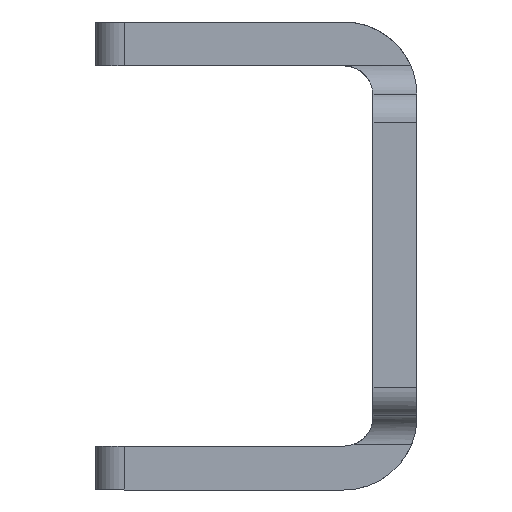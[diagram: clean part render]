
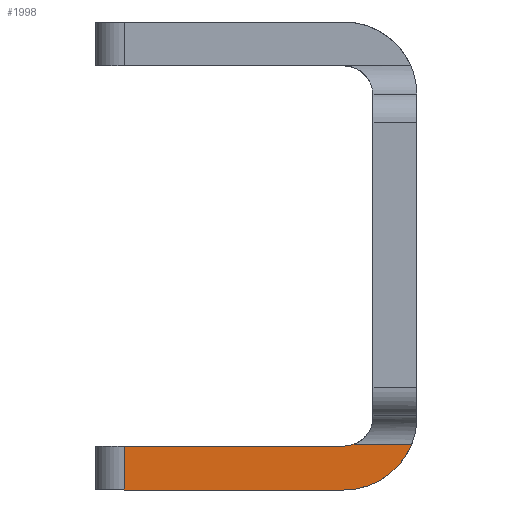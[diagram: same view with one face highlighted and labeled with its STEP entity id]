
A CAD part, left-side view. The second image highlights one B-rep face of the part: STEP entity #1998.
In plain terms, the highlighted planar face has unit normal (-1, 0, 0).
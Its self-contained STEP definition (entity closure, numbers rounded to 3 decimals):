
#66=VECTOR('Line Direction',#65,1.) ;
#249=VECTOR('Line Direction',#248,1.) ;
#922=VECTOR('Line Direction',#921,1.) ;
#1980=VECTOR('Line Direction',#1979,1.) ;
#65=DIRECTION('Vector Direction',(0.,0.,1.)) ;
#248=DIRECTION('Vector Direction',(0.,1.,0.)) ;
#921=DIRECTION('Vector Direction',(0.,1.,0.)) ;
#1967=DIRECTION('Axis2P3D Direction',(1.,0.,0.)) ;
#1968=DIRECTION('Axis2P3D XDirection',(0.,0.,-1.)) ;
#1972=DIRECTION('Axis2P3D Direction',(1.,0.,0.)) ;
#1979=DIRECTION('Vector Direction',(0.,-1.,0.)) ;
#1986=DIRECTION('Axis2P3D Direction',(1.,0.,0.)) ;
#45=CARTESIAN_POINT('Vertex',(-426.,-220.,-13.)) ;
#61=CARTESIAN_POINT('Vertex',(-426.,-220.,-16.)) ;
#64=CARTESIAN_POINT('Line Origine',(-426.,-220.,-14.436)) ;
#197=CARTESIAN_POINT('Vertex',(-426.,-235.,-13.)) ;
#247=CARTESIAN_POINT('Line Origine',(-426.,-227.5,-13.)) ;
#917=CARTESIAN_POINT('Vertex',(-426.,-235.,-16.)) ;
#920=CARTESIAN_POINT('Line Origine',(-426.,-227.5,-16.)) ;
#1966=CARTESIAN_POINT('Axis2P3D Location',(-426.,-240.,16.)) ;
#1971=CARTESIAN_POINT('Axis2P3D Location',(-426.,-235.,-11.)) ;
#1975=CARTESIAN_POINT('Vertex',(-426.,-239.636,-12.873)) ;
#1978=CARTESIAN_POINT('Line Origine',(-426.,-237.669,-12.873)) ;
#1982=CARTESIAN_POINT('Vertex',(-426.,-235.701,-12.873)) ;
#1985=CARTESIAN_POINT('Axis2P3D Location',(-426.,-235.,-11.)) ;
#1969=AXIS2_PLACEMENT_3D('Plane Axis2P3D',#1966,#1967,#1968) ;
#1973=AXIS2_PLACEMENT_3D('Circle Axis2P3D',#1971,#1972,$) ;
#1987=AXIS2_PLACEMENT_3D('Circle Axis2P3D',#1985,#1986,$) ;
#68=EDGE_CURVE('',#62,#46,#67,.T.) ;
#251=EDGE_CURVE('',#198,#46,#250,.T.) ;
#924=EDGE_CURVE('',#918,#62,#923,.T.) ;
#1977=EDGE_CURVE('',#1976,#918,#1974,.T.) ;
#1984=EDGE_CURVE('',#1983,#1976,#1981,.T.) ;
#1989=EDGE_CURVE('',#1983,#198,#1988,.T.) ;
#1970=PLANE('Plane',#1969) ;
#1991=ORIENTED_EDGE('',*,*,#68,.F.) ;
#1992=ORIENTED_EDGE('',*,*,#924,.F.) ;
#1993=ORIENTED_EDGE('',*,*,#1977,.F.) ;
#1994=ORIENTED_EDGE('',*,*,#1984,.F.) ;
#1995=ORIENTED_EDGE('',*,*,#1989,.T.) ;
#1996=ORIENTED_EDGE('',*,*,#251,.T.) ;
#67=LINE('Line',#64,#66) ;
#250=LINE('Line',#247,#249) ;
#923=LINE('Line',#920,#922) ;
#1981=LINE('Line',#1978,#1980) ;
#1998=ADVANCED_FACE('\X2\96F64EF651E04F554F53\X0\',(#1997),#1970,.F.) ;
#1974=CIRCLE('generated circle',#1973,5.) ;
#1988=CIRCLE('generated circle',#1987,2.) ;
#46=VERTEX_POINT('',#45) ;
#62=VERTEX_POINT('',#61) ;
#198=VERTEX_POINT('',#197) ;
#918=VERTEX_POINT('',#917) ;
#1976=VERTEX_POINT('',#1975) ;
#1983=VERTEX_POINT('',#1982) ;
#1990=EDGE_LOOP('',(#1991,#1992,#1993,#1994,#1995,#1996)) ;
#1997=FACE_OUTER_BOUND('',#1990,.T.) ;
